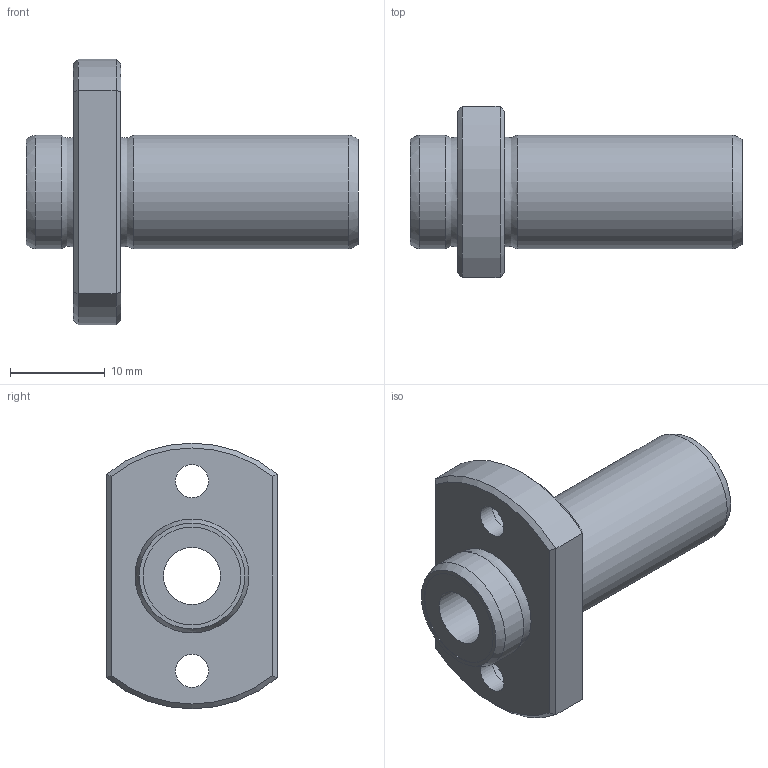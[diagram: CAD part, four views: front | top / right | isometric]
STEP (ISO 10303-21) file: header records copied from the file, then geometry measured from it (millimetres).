
FILE_DESCRIPTION((''),'2;1');
FILE_NAME('D:\製品 (図面)\カタログ用3D\リニアベアリング関連\STEP形式\LFDTB\LFDTB6.stp','2010-06-03T09:49:11',('Tsuchiya'),(''),'Autodesk Inventor 10','Autodesk Inventor 10','');
FILE_SCHEMA(('AUTOMOTIVE_DESIGN { 1 0 10303 214 1 1 1 1 }'));
Length unit declared in the file: millimetre
Products named in the file (1): LFDTB6
Bounding box: 35 x 18 x 28 mm (x, y, z)
Volume: 4454.7 mm3; surface area: 3143.4 mm2
Topology: 1 solids, 1 shells, 33 faces, 63 edges, 38 vertices
Faces by surface type: plane 12, bspline 10, cylinder 7, cone 4
Full cylindrical faces by diameter (mm): 6 x1, 10.3 x2, 12 x2
Entity records: 1021 total; most frequent: CARTESIAN_POINT 396, DIRECTION 120, ORIENTED_EDGE 100, EDGE_LOOP 58, AXIS2_PLACEMENT_3D 54, EDGE_CURVE 50, VERTEX_POINT 38, FACE_OUTER_BOUND 33
